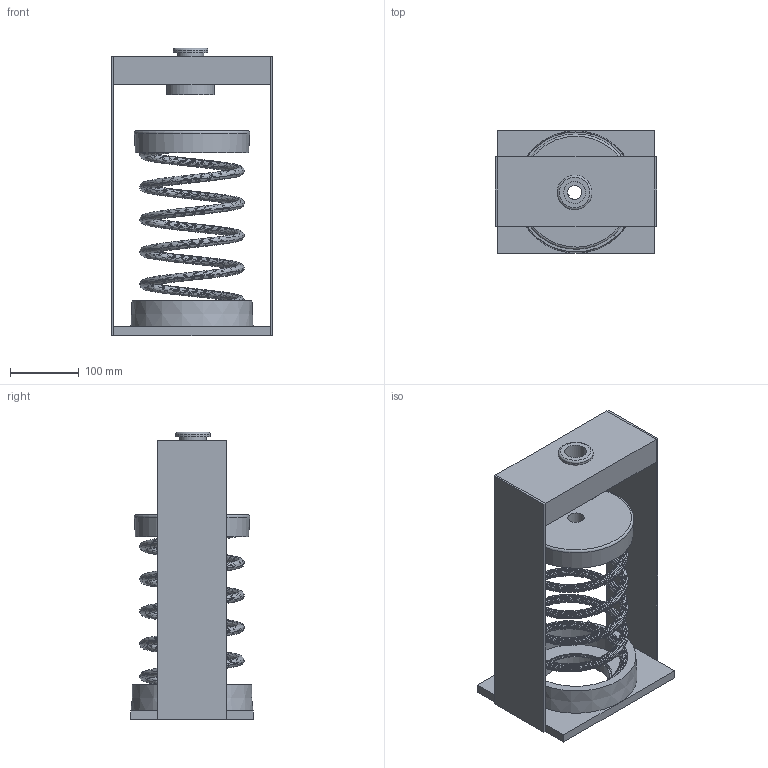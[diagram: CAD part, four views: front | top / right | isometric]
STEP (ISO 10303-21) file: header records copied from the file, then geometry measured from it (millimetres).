
FILE_DESCRIPTION(/* description */ (''),/* implementation_level */ '2;1');
FILE_NAME(/* name */ 'C:\001_Work\Designs\HANGER BOXES\30N 100 SERIES\30N-174-178\30N-178.stp',/* time_stamp */ '2015-06-16T09:53:07-04:00',/* author */ ('rramoutar'),/* organization */ ('Mason Industries Inc.'),/* preprocessor_version */ 'ST-DEVELOPER v15.6',/* originating_system */ 'Autodesk Inventor 2015',/* authorisation */ '');
FILE_SCHEMA (('AUTOMOTIVE_DESIGN { 1 0 10303 214 3 1 1 }'));
Length unit declared in the file: inch
Products named in the file (1): 30N-178
Bounding box: 234.95 x 177.8 x 418.4 mm (x, y, z)
Volume: 1738579.4 mm3; surface area: 730268.7 mm2
Topology: 10 solids, 10 shells, 581 faces, 1490 edges, 993 vertices
Faces by surface type: plane 381, bspline 167, cylinder 26, cone 5, torus 2
Full cylindrical faces by diameter (mm): 20.637 x1, 23.812 x1, 31.709 x1, 31.75 x1, 38.1 x2, 50.8 x1, 63.5 x2, 69.85 x1, 98.425 x1, 103.188 x1, 104.775 x2, 107.95 x2, 150.812 x1, 155.575 x1, 158.75 x2
Entity records: 29608 total; most frequent: CARTESIAN_POINT 15986, ORIENTED_EDGE 2920, DIRECTION 2016, EDGE_CURVE 1460, LINE 1058, VECTOR 1058, VERTEX_POINT 990, EDGE_LOOP 688
